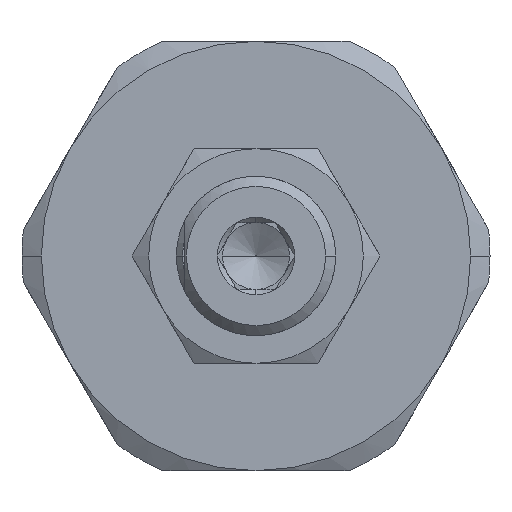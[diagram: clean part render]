
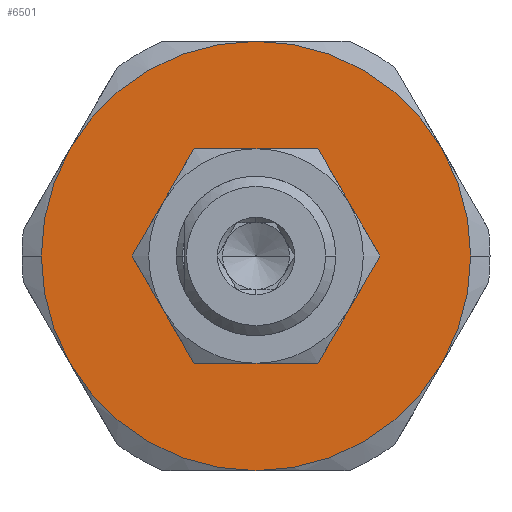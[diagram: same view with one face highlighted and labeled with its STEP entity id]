
A CAD part, left-side view. The second image highlights one B-rep face of the part: STEP entity #6501.
In plain terms, the highlighted planar face has unit normal (-1, 0, 0).
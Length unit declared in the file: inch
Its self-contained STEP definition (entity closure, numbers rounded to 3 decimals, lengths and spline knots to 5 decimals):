
#914=CARTESIAN_POINT('',(0.61,0.5,2.61));
#915=VERTEX_POINT('',#914);
#931=CARTESIAN_POINT('',(0.61,0.43301,2.36));
#932=VERTEX_POINT('',#931);
#946=CARTESIAN_POINT('',(0.61,0.,2.61));
#947=DIRECTION('',(-1.0,0.0,0.0));
#948=DIRECTION('',(0.0,1.0,0.0));
#949=AXIS2_PLACEMENT_3D('',#946,#947,#948);
#950=CIRCLE('',#949,0.5);
#951=EDGE_CURVE('',#915,#932,#950,.T.);
#961=CARTESIAN_POINT('',(0.61,-0.5,2.61));
#962=VERTEX_POINT('',#961);
#969=CARTESIAN_POINT('',(0.61,-0.43301,2.36));
#970=VERTEX_POINT('',#969);
#971=CARTESIAN_POINT('',(0.61,0.,2.61));
#972=DIRECTION('',(-1.0,0.0,0.0));
#973=DIRECTION('',(0.0,1.0,0.0));
#974=AXIS2_PLACEMENT_3D('',#971,#972,#973);
#975=CIRCLE('',#974,0.5);
#976=EDGE_CURVE('',#970,#962,#975,.T.);
#4912=CARTESIAN_POINT('',(0.61,0.21651,2.735));
#4913=VERTEX_POINT('',#4912);
#4927=CARTESIAN_POINT('',(0.61,0.,2.86));
#4928=VERTEX_POINT('',#4927);
#4942=CARTESIAN_POINT('',(0.61,0.,2.61));
#4943=DIRECTION('',(1.0,0.0,0.0));
#4944=DIRECTION('',(0.0,0.0,1.0));
#4945=AXIS2_PLACEMENT_3D('',#4942,#4943,#4944);
#4946=CIRCLE('',#4945,0.25);
#4947=EDGE_CURVE('',#4913,#4928,#4946,.T.);
#4959=CARTESIAN_POINT('',(0.61,0.21651,2.485));
#4960=VERTEX_POINT('',#4959);
#4987=CARTESIAN_POINT('',(0.61,0.,2.61));
#4988=DIRECTION('',(1.0,0.0,0.0));
#4989=DIRECTION('',(0.0,0.0,1.0));
#4990=AXIS2_PLACEMENT_3D('',#4987,#4988,#4989);
#4991=CIRCLE('',#4990,0.25);
#4992=EDGE_CURVE('',#4960,#4913,#4991,.T.);
#5004=CARTESIAN_POINT('',(0.61,0.,2.36));
#5005=VERTEX_POINT('',#5004);
#5032=CARTESIAN_POINT('',(0.61,0.,2.61));
#5033=DIRECTION('',(1.0,0.0,0.0));
#5034=DIRECTION('',(0.0,0.0,1.0));
#5035=AXIS2_PLACEMENT_3D('',#5032,#5033,#5034);
#5036=CIRCLE('',#5035,0.25);
#5037=EDGE_CURVE('',#5005,#4960,#5036,.T.);
#5062=CARTESIAN_POINT('',(0.61,-0.21651,2.485));
#5063=VERTEX_POINT('',#5062);
#5064=CARTESIAN_POINT('',(0.61,0.,2.61));
#5065=DIRECTION('',(1.0,0.0,0.0));
#5066=DIRECTION('',(0.0,0.0,1.0));
#5067=AXIS2_PLACEMENT_3D('',#5064,#5065,#5066);
#5068=CIRCLE('',#5067,0.25);
#5069=EDGE_CURVE('',#5063,#5005,#5068,.T.);
#5107=CARTESIAN_POINT('',(0.61,-0.21651,2.735));
#5108=VERTEX_POINT('',#5107);
#5109=CARTESIAN_POINT('',(0.61,0.,2.61));
#5110=DIRECTION('',(1.0,0.0,0.0));
#5111=DIRECTION('',(0.0,0.0,1.0));
#5112=AXIS2_PLACEMENT_3D('',#5109,#5110,#5111);
#5113=CIRCLE('',#5112,0.25);
#5114=EDGE_CURVE('',#5108,#5063,#5113,.T.);
#5152=CARTESIAN_POINT('',(0.61,0.,2.61));
#5153=DIRECTION('',(1.0,0.0,0.0));
#5154=DIRECTION('',(0.0,0.0,1.0));
#5155=AXIS2_PLACEMENT_3D('',#5152,#5153,#5154);
#5156=CIRCLE('',#5155,0.25);
#5157=EDGE_CURVE('',#4928,#5108,#5156,.T.);
#6434=CARTESIAN_POINT('',(0.61,0.,2.61));
#6435=DIRECTION('',(1.0,0.0,0.0));
#6436=DIRECTION('',(0.0,0.0,-1.0));
#6437=AXIS2_PLACEMENT_3D('',#6434,#6435,#6436);
#6438=PLANE('',#6437);
#6439=CARTESIAN_POINT('',(0.61,-0.43301,2.86));
#6440=VERTEX_POINT('',#6439);
#6441=CARTESIAN_POINT('',(0.61,0.,3.11));
#6442=VERTEX_POINT('',#6441);
#6443=CARTESIAN_POINT('',(0.61,0.,2.61));
#6444=DIRECTION('',(-1.0,0.0,0.0));
#6445=DIRECTION('',(0.0,1.0,0.0));
#6446=AXIS2_PLACEMENT_3D('',#6443,#6444,#6445);
#6447=CIRCLE('',#6446,0.5);
#6448=EDGE_CURVE('',#6440,#6442,#6447,.T.);
#6449=ORIENTED_EDGE('',*,*,#6448,.T.);
#6450=CARTESIAN_POINT('',(0.61,0.43301,2.86));
#6451=VERTEX_POINT('',#6450);
#6452=CARTESIAN_POINT('',(0.61,0.,2.61));
#6453=DIRECTION('',(-1.0,0.0,0.0));
#6454=DIRECTION('',(0.0,1.0,0.0));
#6455=AXIS2_PLACEMENT_3D('',#6452,#6453,#6454);
#6456=CIRCLE('',#6455,0.5);
#6457=EDGE_CURVE('',#6442,#6451,#6456,.T.);
#6458=ORIENTED_EDGE('',*,*,#6457,.T.);
#6459=CARTESIAN_POINT('',(0.61,0.,2.61));
#6460=DIRECTION('',(-1.0,0.0,0.0));
#6461=DIRECTION('',(0.0,1.0,0.0));
#6462=AXIS2_PLACEMENT_3D('',#6459,#6460,#6461);
#6463=CIRCLE('',#6462,0.5);
#6464=EDGE_CURVE('',#6451,#915,#6463,.T.);
#6465=ORIENTED_EDGE('',*,*,#6464,.T.);
#6466=ORIENTED_EDGE('',*,*,#951,.T.);
#6467=CARTESIAN_POINT('',(0.61,0.,2.11));
#6468=VERTEX_POINT('',#6467);
#6469=CARTESIAN_POINT('',(0.61,0.,2.61));
#6470=DIRECTION('',(-1.0,0.0,0.0));
#6471=DIRECTION('',(0.0,1.0,0.0));
#6472=AXIS2_PLACEMENT_3D('',#6469,#6470,#6471);
#6473=CIRCLE('',#6472,0.5);
#6474=EDGE_CURVE('',#932,#6468,#6473,.T.);
#6475=ORIENTED_EDGE('',*,*,#6474,.T.);
#6476=CARTESIAN_POINT('',(0.61,0.,2.61));
#6477=DIRECTION('',(-1.0,0.0,0.0));
#6478=DIRECTION('',(0.0,1.0,0.0));
#6479=AXIS2_PLACEMENT_3D('',#6476,#6477,#6478);
#6480=CIRCLE('',#6479,0.5);
#6481=EDGE_CURVE('',#6468,#970,#6480,.T.);
#6482=ORIENTED_EDGE('',*,*,#6481,.T.);
#6483=ORIENTED_EDGE('',*,*,#976,.T.);
#6484=CARTESIAN_POINT('',(0.61,0.,2.61));
#6485=DIRECTION('',(-1.0,0.0,0.0));
#6486=DIRECTION('',(0.0,1.0,0.0));
#6487=AXIS2_PLACEMENT_3D('',#6484,#6485,#6486);
#6488=CIRCLE('',#6487,0.5);
#6489=EDGE_CURVE('',#962,#6440,#6488,.T.);
#6490=ORIENTED_EDGE('',*,*,#6489,.T.);
#6491=EDGE_LOOP('',(#6449,#6458,#6465,#6466,#6475,#6482,#6483,#6490));
#6492=FACE_OUTER_BOUND('',#6491,.T.);
#6493=ORIENTED_EDGE('',*,*,#4947,.T.);
#6494=ORIENTED_EDGE('',*,*,#5157,.T.);
#6495=ORIENTED_EDGE('',*,*,#5114,.T.);
#6496=ORIENTED_EDGE('',*,*,#5069,.T.);
#6497=ORIENTED_EDGE('',*,*,#5037,.T.);
#6498=ORIENTED_EDGE('',*,*,#4992,.T.);
#6499=EDGE_LOOP('',(#6493,#6494,#6495,#6496,#6497,#6498));
#6500=FACE_BOUND('',#6499,.T.);
#6501=ADVANCED_FACE('',(#6492,#6500),#6438,.F.);
